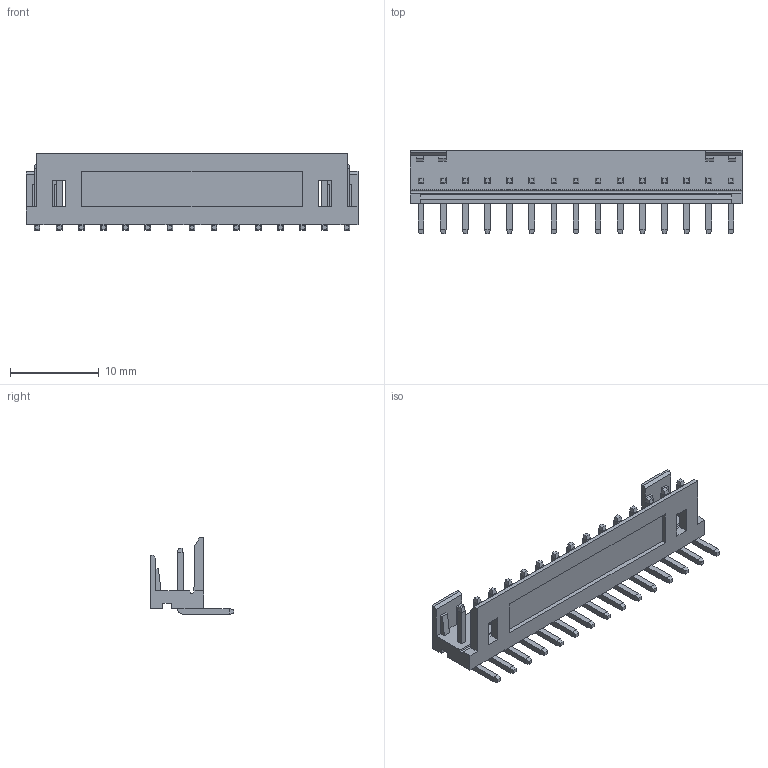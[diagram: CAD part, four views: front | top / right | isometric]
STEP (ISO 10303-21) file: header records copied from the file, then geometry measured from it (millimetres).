
FILE_DESCRIPTION(('CATIA V5 STEP Exchange'),'2;1');
FILE_NAME('F:\小黄\条形连接器\2.50系列\21--TJC9\NAW\HC-TJC9-15AW-05（2.50 单排 弯针-HCTL）.stp','2025-07-24T08:38:47+00:00',('none'),('none'),'CATIA Version 5 Release 20 GA (IN-10)','CATIA V5 STEP AP203','none');
FILE_SCHEMA(('CONFIG_CONTROL_DESIGN'));
Length unit declared in the file: millimetre
Products named in the file (1): Part2
Bounding box: 37.5 x 9.4 x 8.64 mm (x, y, z)
Volume: 662.9 mm3; surface area: 1576.5 mm2
Topology: 1 solids, 1 shells, 340 faces, 878 edges, 554 vertices
Faces by surface type: plane 324, cylinder 16
Entity records: 9050 total; most frequent: ORIENTED_EDGE 1756, CARTESIAN_POINT 1571, DIRECTION 1154, EDGE_CURVE 878, VECTOR 846, LINE 846, VERTEX_POINT 554, EDGE_LOOP 358
